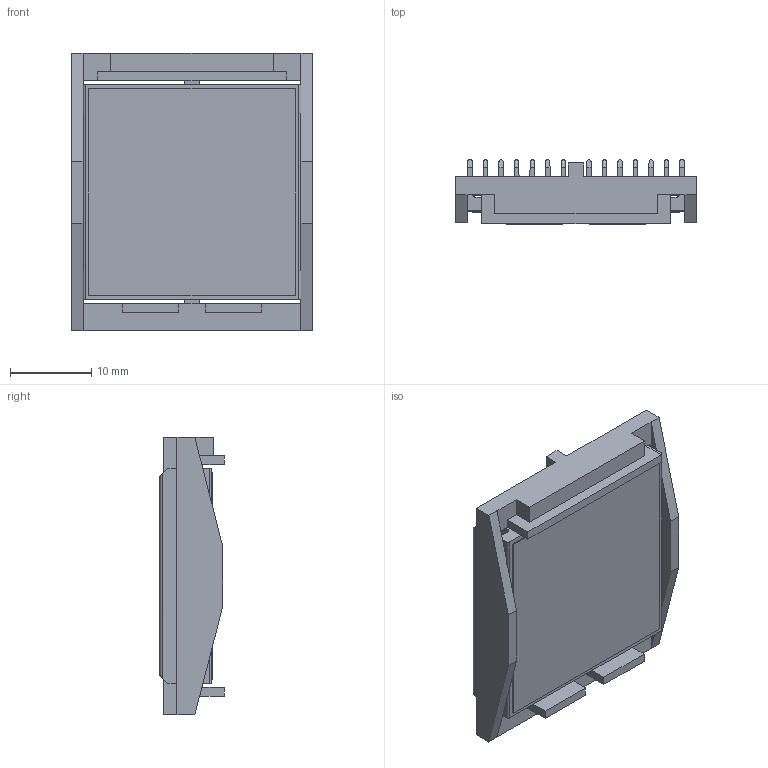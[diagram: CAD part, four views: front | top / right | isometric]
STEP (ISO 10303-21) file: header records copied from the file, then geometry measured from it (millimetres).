
FILE_DESCRIPTION (( 'STEP AP214' ), '1' );
FILE_NAME ('INL27001-6-1.7BU.STEP', '2023-02-21T21:32:13', ( '' ), ( '' ), 'SwSTEP 2.0', 'SolidWorks 2020', '' );
FILE_SCHEMA (( 'AUTOMOTIVE_DESIGN' ));
Length unit declared in the file: millimetre
Products named in the file (1): INL27001-6-1.7BU
Bounding box: 29.6 x 7.9 x 34.1 mm (x, y, z)
Volume: 3511.3 mm3; surface area: 8055.6 mm2
Topology: 3 solids, 3 shells, 168 faces, 488 edges, 324 vertices
Faces by surface type: plane 126, cylinder 42
Entity records: 7380 total; most frequent: CARTESIAN_POINT 1065, ORIENTED_EDGE 976, DIRECTION 854, EDGE_CURVE 488, VECTOR 404, LINE 404, VERTEX_POINT 324, AXIS2_PLACEMENT_3D 225
